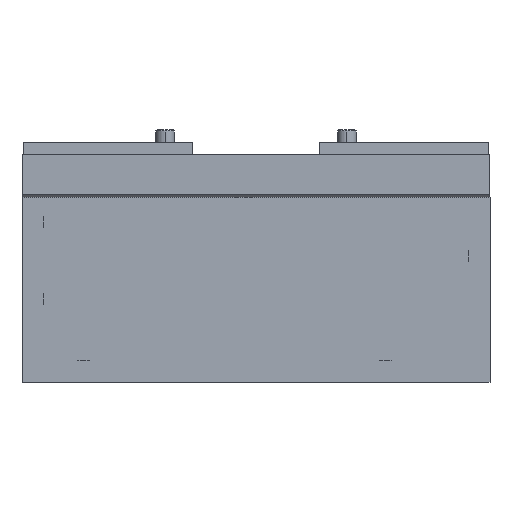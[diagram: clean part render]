
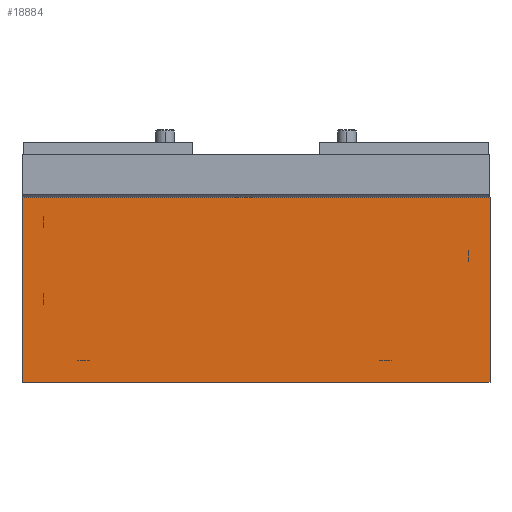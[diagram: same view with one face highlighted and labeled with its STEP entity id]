
A CAD part, front view. The second image highlights one B-rep face of the part: STEP entity #18884.
In plain terms, the highlighted planar face has unit normal (0, -1, 0) as drawn and (0, 1, 0) by its records, which use the part's own axes.
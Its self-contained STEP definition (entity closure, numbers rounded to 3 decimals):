
#2 = EDGE_CURVE ( 'NONE', #19079, #3, #12404, .T. ) ;
#3 = VERTEX_POINT ( 'NONE', #12400 ) ;
#1788 = CARTESIAN_POINT ( 'NONE',  ( -38., 60., -15. ) ) ;
#1843 = DIRECTION ( 'NONE',  ( 0., 0., 1. ) ) ;
#1844 = VECTOR ( 'NONE', #1843, 1000. ) ;
#1845 = CARTESIAN_POINT ( 'NONE',  ( -38., 60., 15. ) ) ;
#1846 = LINE ( 'NONE', #1845, #1844 ) ;
#7500 = CARTESIAN_POINT ( 'NONE',  ( 38., 60., -15. ) ) ;
#7551 = FACE_OUTER_BOUND ( 'NONE', #18887, .T. ) ;
#7552 = DIRECTION ( 'NONE',  ( 0., 0., -1. ) ) ;
#7553 = VECTOR ( 'NONE', #7552, 1000. ) ;
#7554 = CARTESIAN_POINT ( 'NONE',  ( 38., 60., 15. ) ) ;
#7556 = LINE ( 'NONE', #7554, #7553 ) ;
#7557 = DIRECTION ( 'NONE',  ( -1., 0., 0. ) ) ;
#7558 = VECTOR ( 'NONE', #7557, 1000. ) ;
#7559 = CARTESIAN_POINT ( 'NONE',  ( -38., 60., -15. ) ) ;
#7560 = LINE ( 'NONE', #7559, #7558 ) ;
#7593 = DIRECTION ( 'NONE',  ( 0., 0., 1. ) ) ;
#7594 = DIRECTION ( 'NONE',  ( 0., 1., 0. ) ) ;
#7595 = CARTESIAN_POINT ( 'NONE',  ( 38., 60., -15. ) ) ;
#7596 = AXIS2_PLACEMENT_3D ( 'NONE', #7595, #7594, #7593 ) ;
#7597 = PLANE ( 'NONE',  #7596 ) ;
#8127 = CARTESIAN_POINT ( 'NONE',  ( -38., 60., 15. ) ) ;
#10806 = VERTEX_POINT ( 'NONE', #1788 ) ;
#10807 = EDGE_CURVE ( 'NONE', #10806, #19079, #1846, .T. ) ;
#12400 = CARTESIAN_POINT ( 'NONE',  ( 38., 60., 15. ) ) ;
#12401 = DIRECTION ( 'NONE',  ( 1., 0., 0. ) ) ;
#12402 = VECTOR ( 'NONE', #12401, 1000. ) ;
#12403 = CARTESIAN_POINT ( 'NONE',  ( -38., 60., 15. ) ) ;
#12404 = LINE ( 'NONE', #12403, #12402 ) ;
#18867 = VERTEX_POINT ( 'NONE', #7500 ) ;
#18875 = ORIENTED_EDGE ( 'NONE', *, *, #18883, .T. ) ;
#18877 = ORIENTED_EDGE ( 'NONE', *, *, #2, .T. ) ;
#18879 = EDGE_CURVE ( 'NONE', #18867, #10806, #7560, .T. ) ;
#18880 = ORIENTED_EDGE ( 'NONE', *, *, #10807, .T. ) ;
#18883 = EDGE_CURVE ( 'NONE', #3, #18867, #7556, .T. ) ;
#18884 = ADVANCED_FACE ( 'NONE', ( #7551 ), #7597, .T. ) ;
#18887 = EDGE_LOOP ( 'NONE', ( #18895, #18880, #18877, #18875 ) ) ;
#18895 = ORIENTED_EDGE ( 'NONE', *, *, #18879, .T. ) ;
#19079 = VERTEX_POINT ( 'NONE', #8127 ) ;
